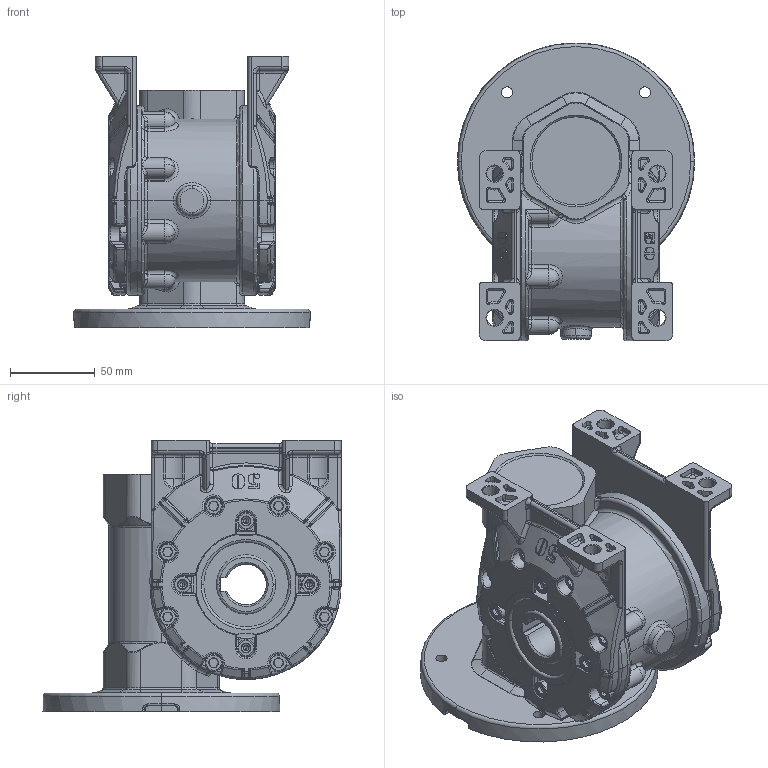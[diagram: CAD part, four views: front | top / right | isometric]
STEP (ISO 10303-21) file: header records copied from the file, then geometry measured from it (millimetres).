
FILE_DESCRIPTION (( 'STEP AP214' ), '1' );
FILE_NAME ('mrt50a-v-63-115.step', '2011-10-12T05:58:46', ( '' ), ( '' ), 'SwSTEP 2.0', 'SolidWorks 2010', '' );
FILE_SCHEMA (( 'AUTOMOTIVE_DESIGN' ));
Length unit declared in the file: millimetre
Products named in the file (6): Sroub DIN 6912_M6x16; Adaptér patky 50; pøíruba 115 d52 MRT50a_priruba 85-MRT50; MRT50A_MRT50A-AP63; mrt50a-v-63-115; Sroub DIN 6912_M5x16
Assembly tree (18 placements, depth 2):
  mrt50a-v-63-115
    Sroub DIN 6912_M6x16  x8
    Sroub DIN 6912_M5x16  x6
    pøíruba 115 d52 MRT50a_priruba 85-MRT50
    MRT50A_MRT50A-AP63
    Adaptér patky 50  x2
Bounding box: 139.68 x 175.76 x 160 mm (x, y, z)
Volume: 1209048.7 mm3; surface area: 204104.4 mm2
Topology: 18 solids, 20 shells, 3480 faces, 8226 edges, 4642 vertices
Faces by surface type: cylinder 856, bspline 822, torus 717, plane 558, cone 453, sphere 74
Entity records: 134298 total; most frequent: CARTESIAN_POINT 81317, ORIENTED_EDGE 10418, DIRECTION 10053, EDGE_CURVE 5209, AXIS2_PLACEMENT_3D 4456, VERTEX_POINT 3025, CIRCLE 2733, EDGE_LOOP 2344
